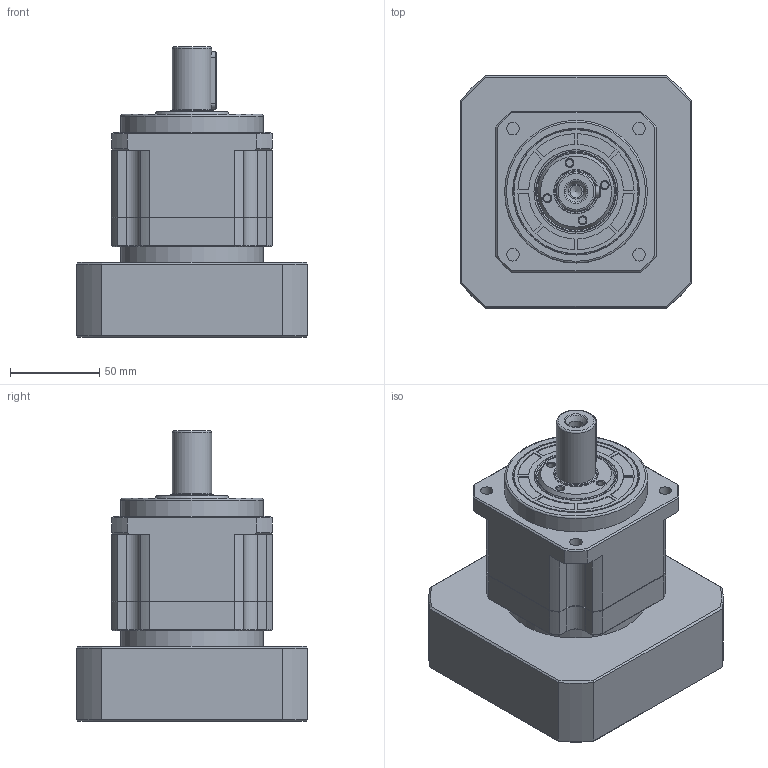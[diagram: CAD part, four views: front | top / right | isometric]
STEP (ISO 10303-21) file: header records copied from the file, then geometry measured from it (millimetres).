
FILE_DESCRIPTION(/* description */ (''),/* implementation_level */ '2;1');
FILE_NAME(/* name */ '分体TB090-L1-22-110-145-M8-60.5-16.stp',/* time_stamp */ '2020-11-24T14:06:55+08:00',/* author */ (''),/* organization */ (''),/* preprocessor_version */ 'ST-DEVELOPER v16',/* originating_system */ 'SIEMENS PLM Software NX 10.0',/* authorisation */ '');
FILE_SCHEMA (('CONFIG_CONTROL_DESIGN'));
Length unit declared in the file: millimetre
Products named in the file (1): _model290
Bounding box: 130 x 130 x 163 mm (x, y, z)
Volume: 945421.8 mm3; surface area: 146582.4 mm2
Topology: 5 solids, 6 shells, 401 faces, 947 edges, 596 vertices
Faces by surface type: plane 164, cylinder 129, cone 93, torus 15
Full cylindrical faces by diameter (mm): 4 x4, 4.2 x10, 5.2 x1, 5.5 x10, 6.5 x1, 6.8 x5, 7 x4, 8.4 x1, 9 x6, 12.1 x1, 22 x2, 25 x1, 26.6 x1, 27.5 x1, 28 x2, 31 x1, 38 x1, 40 x1, 47.1 x1, 55 x1, 66 x1, 70 x2, 70.999 x1, 76 x1, 80 x3, 85 x1, 110 x1
Entity records: 10793 total; most frequent: CARTESIAN_POINT 2048, DIRECTION 1863, ORIENTED_EDGE 1544, EDGE_CURVE 772, AXIS2_PLACEMENT_3D 762, EDGE_LOOP 601, VERTEX_POINT 559, ADVANCED_FACE 401
